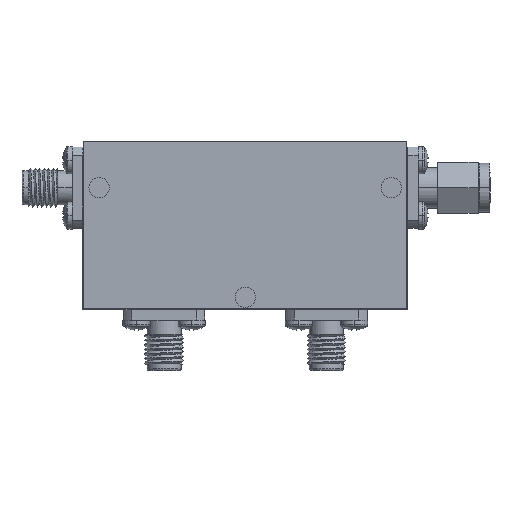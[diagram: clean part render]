
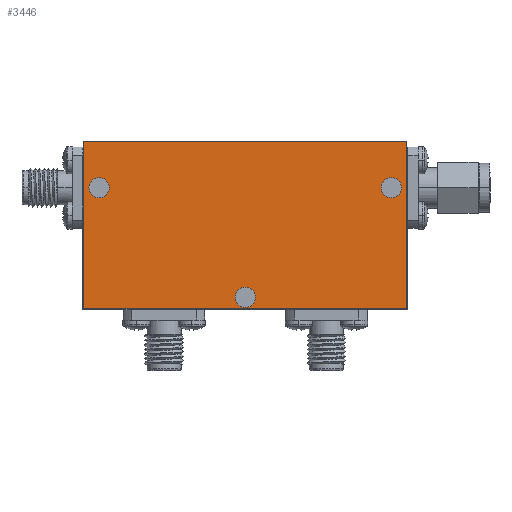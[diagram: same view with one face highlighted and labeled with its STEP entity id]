
A CAD part, top view. The second image highlights one B-rep face of the part: STEP entity #3446.
In plain terms, the highlighted planar face has unit normal (0, 0, 1).
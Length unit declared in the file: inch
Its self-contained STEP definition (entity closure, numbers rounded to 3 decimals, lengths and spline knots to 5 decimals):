
#134 = ORIENTED_EDGE ( 'NONE', *, *, #1394, .T. ) ;
#218 = EDGE_CURVE ( 'NONE', #3179, #4597, #5610, .T. ) ;
#313 = AXIS2_PLACEMENT_3D ( 'NONE', #1701, #1743, #1296 ) ;
#389 = VECTOR ( 'NONE', #5689, 39.37008 ) ;
#477 = DIRECTION ( 'NONE',  ( 1., 0., 0. ) ) ;
#528 = EDGE_LOOP ( 'NONE', ( #3817, #5605, #134, #3735 ) ) ;
#553 = DIRECTION ( 'NONE',  ( 0., 0., 1. ) ) ;
#593 = EDGE_CURVE ( 'NONE', #4387, #4388, #986, .T. ) ;
#693 = DIRECTION ( 'NONE',  ( 0., 0., 1. ) ) ;
#813 = VERTEX_POINT ( 'NONE', #3368 ) ;
#815 = DIRECTION ( 'NONE',  ( 1., 0., 0. ) ) ;
#857 = VECTOR ( 'NONE', #5136, 39.37008 ) ;
#870 = CIRCLE ( 'NONE', #313, 0.0625 ) ;
#921 = AXIS2_PLACEMENT_3D ( 'NONE', #2062, #693, #3874 ) ;
#948 = DIRECTION ( 'NONE',  ( 0., 0., -1. ) ) ;
#986 = CIRCLE ( 'NONE', #5263, 0.0625 ) ;
#1051 = DIRECTION ( 'NONE',  ( 1., 0., 0. ) ) ;
#1140 = ORIENTED_EDGE ( 'NONE', *, *, #218, .F. ) ;
#1172 = LINE ( 'NONE', #2932, #2377 ) ;
#1208 = ORIENTED_EDGE ( 'NONE', *, *, #3810, .F. ) ;
#1212 = CARTESIAN_POINT ( 'NONE',  ( 0.9625, 0.23, 0.574 ) ) ;
#1242 = CIRCLE ( 'NONE', #921, 0.0625 ) ;
#1296 = DIRECTION ( 'NONE',  ( 1., 0., 0. ) ) ;
#1394 = EDGE_CURVE ( 'NONE', #4681, #1883, #5805, .T. ) ;
#1473 = CARTESIAN_POINT ( 'NONE',  ( 0., -0.445, 0.574 ) ) ;
#1601 = EDGE_LOOP ( 'NONE', ( #1741, #2348 ) ) ;
#1612 = DIRECTION ( 'NONE',  ( 0., 1., 0. ) ) ;
#1643 = FACE_BOUND ( 'NONE', #4105, .T. ) ;
#1672 = CARTESIAN_POINT ( 'NONE',  ( -0.8375, 0.23, 0.574 ) ) ;
#1701 = CARTESIAN_POINT ( 'NONE',  ( -0.9, 0.23, 0.574 ) ) ;
#1741 = ORIENTED_EDGE ( 'NONE', *, *, #593, .F. ) ;
#1743 = DIRECTION ( 'NONE',  ( 0., 0., 1. ) ) ;
#1758 = EDGE_CURVE ( 'NONE', #1883, #4430, #4935, .T. ) ;
#1807 = CIRCLE ( 'NONE', #3804, 0.0625 ) ;
#1829 = PLANE ( 'NONE',  #3789 ) ;
#1831 = CARTESIAN_POINT ( 'NONE',  ( 0.0625, -0.445, 0.574 ) ) ;
#1883 = VERTEX_POINT ( 'NONE', #2921 ) ;
#1933 = CARTESIAN_POINT ( 'NONE',  ( -0.995, -0.515, 0.574 ) ) ;
#2039 = DIRECTION ( 'NONE',  ( 0., -1., 0. ) ) ;
#2062 = CARTESIAN_POINT ( 'NONE',  ( 0.9, 0.23, 0.574 ) ) ;
#2081 = EDGE_CURVE ( 'NONE', #4388, #4387, #1242, .T. ) ;
#2144 = EDGE_CURVE ( 'NONE', #4430, #3848, #1172, .T. ) ;
#2175 = VECTOR ( 'NONE', #2039, 39.37008 ) ;
#2304 = DIRECTION ( 'NONE',  ( 0., 0., 1. ) ) ;
#2348 = ORIENTED_EDGE ( 'NONE', *, *, #2081, .F. ) ;
#2377 = VECTOR ( 'NONE', #1612, 39.37008 ) ;
#2694 = DIRECTION ( 'NONE',  ( -1., 0., 0. ) ) ;
#2734 = CARTESIAN_POINT ( 'NONE',  ( 0.9, 0.23, 0.574 ) ) ;
#2783 = EDGE_CURVE ( 'NONE', #4597, #3179, #5222, .T. ) ;
#2921 = CARTESIAN_POINT ( 'NONE',  ( -0.995, -0.515, 0.574 ) ) ;
#2932 = CARTESIAN_POINT ( 'NONE',  ( 0.995, -0.515, 0.574 ) ) ;
#3048 = DIRECTION ( 'NONE',  ( 0., 0., 1. ) ) ;
#3179 = VERTEX_POINT ( 'NONE', #3797 ) ;
#3308 = VERTEX_POINT ( 'NONE', #1672 ) ;
#3368 = CARTESIAN_POINT ( 'NONE',  ( -0.9625, 0.23, 0.574 ) ) ;
#3446 = ADVANCED_FACE ( 'NONE', ( #1643, #5069, #4985, #3503 ), #1829, .F. ) ;
#3503 = FACE_OUTER_BOUND ( 'NONE', #528, .T. ) ;
#3521 = CARTESIAN_POINT ( 'NONE',  ( 0.995, 0.515, 0.574 ) ) ;
#3668 = CARTESIAN_POINT ( 'NONE',  ( 0., 0., 0.574 ) ) ;
#3691 = DIRECTION ( 'NONE',  ( 1., 0., 0. ) ) ;
#3735 = ORIENTED_EDGE ( 'NONE', *, *, #1758, .T. ) ;
#3773 = AXIS2_PLACEMENT_3D ( 'NONE', #1473, #553, #1051 ) ;
#3789 = AXIS2_PLACEMENT_3D ( 'NONE', #3668, #948, #2694 ) ;
#3797 = CARTESIAN_POINT ( 'NONE',  ( -0.0625, -0.445, 0.574 ) ) ;
#3804 = AXIS2_PLACEMENT_3D ( 'NONE', #5051, #2304, #477 ) ;
#3810 = EDGE_CURVE ( 'NONE', #3308, #813, #870, .T. ) ;
#3817 = ORIENTED_EDGE ( 'NONE', *, *, #2144, .T. ) ;
#3829 = AXIS2_PLACEMENT_3D ( 'NONE', #5306, #3048, #815 ) ;
#3842 = ORIENTED_EDGE ( 'NONE', *, *, #5706, .F. ) ;
#3848 = VERTEX_POINT ( 'NONE', #3521 ) ;
#3874 = DIRECTION ( 'NONE',  ( 1., 0., 0. ) ) ;
#4105 = EDGE_LOOP ( 'NONE', ( #5762, #1140 ) ) ;
#4306 = LINE ( 'NONE', #4763, #389 ) ;
#4387 = VERTEX_POINT ( 'NONE', #1212 ) ;
#4388 = VERTEX_POINT ( 'NONE', #5728 ) ;
#4424 = CARTESIAN_POINT ( 'NONE',  ( 0.995, -0.515, 0.574 ) ) ;
#4430 = VERTEX_POINT ( 'NONE', #4424 ) ;
#4597 = VERTEX_POINT ( 'NONE', #1831 ) ;
#4681 = VERTEX_POINT ( 'NONE', #5414 ) ;
#4763 = CARTESIAN_POINT ( 'NONE',  ( -0.995, 0.515, 0.574 ) ) ;
#4935 = LINE ( 'NONE', #1933, #857 ) ;
#4985 = FACE_BOUND ( 'NONE', #5746, .T. ) ;
#5030 = DIRECTION ( 'NONE',  ( 0., 0., 1. ) ) ;
#5051 = CARTESIAN_POINT ( 'NONE',  ( -0.9, 0.23, 0.574 ) ) ;
#5069 = FACE_BOUND ( 'NONE', #1601, .T. ) ;
#5136 = DIRECTION ( 'NONE',  ( 1., 0., 0. ) ) ;
#5222 = CIRCLE ( 'NONE', #3829, 0.0625 ) ;
#5263 = AXIS2_PLACEMENT_3D ( 'NONE', #2734, #5030, #3691 ) ;
#5306 = CARTESIAN_POINT ( 'NONE',  ( 0., -0.445, 0.574 ) ) ;
#5414 = CARTESIAN_POINT ( 'NONE',  ( -0.995, 0.515, 0.574 ) ) ;
#5605 = ORIENTED_EDGE ( 'NONE', *, *, #5886, .T. ) ;
#5610 = CIRCLE ( 'NONE', #3773, 0.0625 ) ;
#5689 = DIRECTION ( 'NONE',  ( -1., 0., 0. ) ) ;
#5706 = EDGE_CURVE ( 'NONE', #813, #3308, #1807, .T. ) ;
#5717 = CARTESIAN_POINT ( 'NONE',  ( -0.995, -0.515, 0.574 ) ) ;
#5728 = CARTESIAN_POINT ( 'NONE',  ( 0.8375, 0.23, 0.574 ) ) ;
#5746 = EDGE_LOOP ( 'NONE', ( #1208, #3842 ) ) ;
#5762 = ORIENTED_EDGE ( 'NONE', *, *, #2783, .F. ) ;
#5805 = LINE ( 'NONE', #5717, #2175 ) ;
#5886 = EDGE_CURVE ( 'NONE', #3848, #4681, #4306, .T. ) ;
